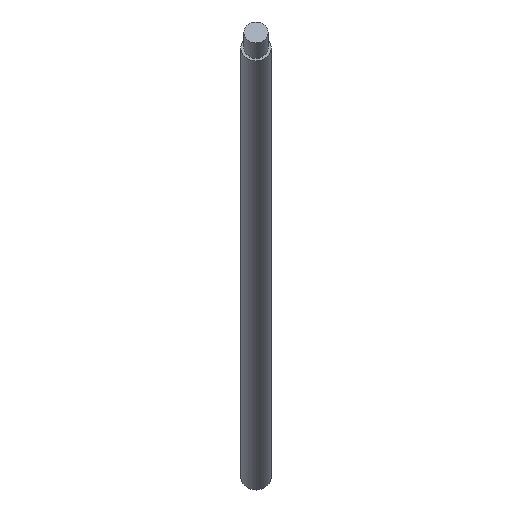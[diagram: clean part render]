
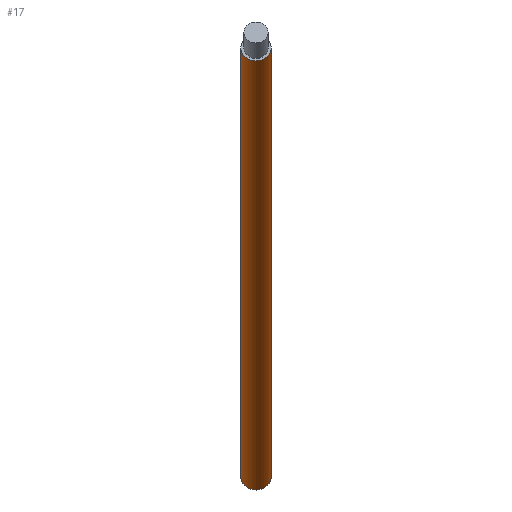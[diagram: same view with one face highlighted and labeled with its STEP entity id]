
A CAD part, front view. The second image highlights one B-rep face of the part: STEP entity #17.
In plain terms, the highlighted cylindrical face has radius 12.5 mm (diameter 25 mm), a full revolution.
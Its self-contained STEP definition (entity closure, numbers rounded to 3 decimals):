
#17 = ADVANCED_FACE('',(#18),#31,.T.);
#18 = FACE_BOUND('',#19,.T.);
#19 = EDGE_LOOP('',(#20,#54,#77,#104));
#20 = ORIENTED_EDGE('',*,*,#21,.F.);
#21 = EDGE_CURVE('',#22,#22,#24,.T.);
#22 = VERTEX_POINT('',#23);
#23 = CARTESIAN_POINT('',(0.,-1536.224,
    2049.474));
#24 = SURFACE_CURVE('',#25,(#30,#42),.PCURVE_S1.);
#25 = CIRCLE('',#26,12.5);
#26 = AXIS2_PLACEMENT_3D('',#27,#28,#29);
#27 = CARTESIAN_POINT('',(0.,-1529.763,2060.175));
#28 = DIRECTION('',(0.,-0.856,0.517));
#29 = DIRECTION('',(0.,-0.517,-0.856));
#30 = PCURVE('',#31,#36);
#31 = CYLINDRICAL_SURFACE('',#32,12.5);
#32 = AXIS2_PLACEMENT_3D('',#33,#34,#35);
#33 = CARTESIAN_POINT('',(0.,-943.359,1706.12));
#34 = DIRECTION('',(0.,-0.856,0.517));
#35 = DIRECTION('',(0.,-0.517,-0.856));
#36 = DEFINITIONAL_REPRESENTATION('',(#37),#41);
#37 = LINE('',#38,#39);
#38 = CARTESIAN_POINT('',(0.,685.));
#39 = VECTOR('',#40,1.);
#40 = DIRECTION('',(1.,0.));
#41 = ( GEOMETRIC_REPRESENTATION_CONTEXT(2) 
PARAMETRIC_REPRESENTATION_CONTEXT() REPRESENTATION_CONTEXT('2D SPACE',''
  ) );
#42 = PCURVE('',#43,#48);
#43 = PLANE('',#44);
#44 = AXIS2_PLACEMENT_3D('',#45,#46,#47);
#45 = CARTESIAN_POINT('',(0.,-1529.763,2060.175));
#46 = DIRECTION('',(0.,-0.856,0.517));
#47 = DIRECTION('',(0.,-0.517,-0.856));
#48 = DEFINITIONAL_REPRESENTATION('',(#49),#53);
#49 = CIRCLE('',#50,12.5);
#50 = AXIS2_PLACEMENT_2D('',#51,#52);
#51 = CARTESIAN_POINT('',(0.,0.));
#52 = DIRECTION('',(1.,0.));
#53 = ( GEOMETRIC_REPRESENTATION_CONTEXT(2) 
PARAMETRIC_REPRESENTATION_CONTEXT() REPRESENTATION_CONTEXT('2D SPACE',''
  ) );
#54 = ORIENTED_EDGE('',*,*,#55,.F.);
#55 = EDGE_CURVE('',#56,#22,#58,.T.);
#56 = VERTEX_POINT('',#57);
#57 = CARTESIAN_POINT('',(0.,-949.82,
    1695.419));
#58 = SEAM_CURVE('',#59,(#63,#70),.PCURVE_S1.);
#59 = LINE('',#60,#61);
#60 = CARTESIAN_POINT('',(0.,-949.82,
    1695.419));
#61 = VECTOR('',#62,1.);
#62 = DIRECTION('',(0.,-0.856,0.517)
  );
#63 = PCURVE('',#31,#64);
#64 = DEFINITIONAL_REPRESENTATION('',(#65),#69);
#65 = LINE('',#66,#67);
#66 = CARTESIAN_POINT('',(6.283,-0.));
#67 = VECTOR('',#68,1.);
#68 = DIRECTION('',(0.,1.));
#69 = ( GEOMETRIC_REPRESENTATION_CONTEXT(2) 
PARAMETRIC_REPRESENTATION_CONTEXT() REPRESENTATION_CONTEXT('2D SPACE',''
  ) );
#70 = PCURVE('',#31,#71);
#71 = DEFINITIONAL_REPRESENTATION('',(#72),#76);
#72 = LINE('',#73,#74);
#73 = CARTESIAN_POINT('',(0.,-0.));
#74 = VECTOR('',#75,1.);
#75 = DIRECTION('',(0.,1.));
#76 = ( GEOMETRIC_REPRESENTATION_CONTEXT(2) 
PARAMETRIC_REPRESENTATION_CONTEXT() REPRESENTATION_CONTEXT('2D SPACE',''
  ) );
#77 = ORIENTED_EDGE('',*,*,#78,.T.);
#78 = EDGE_CURVE('',#56,#56,#79,.T.);
#79 = SURFACE_CURVE('',#80,(#85,#92),.PCURVE_S1.);
#80 = CIRCLE('',#81,12.5);
#81 = AXIS2_PLACEMENT_3D('',#82,#83,#84);
#82 = CARTESIAN_POINT('',(0.,-943.359,1706.12));
#83 = DIRECTION('',(0.,-0.856,0.517));
#84 = DIRECTION('',(0.,-0.517,-0.856));
#85 = PCURVE('',#31,#86);
#86 = DEFINITIONAL_REPRESENTATION('',(#87),#91);
#87 = LINE('',#88,#89);
#88 = CARTESIAN_POINT('',(0.,0.));
#89 = VECTOR('',#90,1.);
#90 = DIRECTION('',(1.,0.));
#91 = ( GEOMETRIC_REPRESENTATION_CONTEXT(2) 
PARAMETRIC_REPRESENTATION_CONTEXT() REPRESENTATION_CONTEXT('2D SPACE',''
  ) );
#92 = PCURVE('',#93,#98);
#93 = PLANE('',#94);
#94 = AXIS2_PLACEMENT_3D('',#95,#96,#97);
#95 = CARTESIAN_POINT('',(0.,-943.359,1706.12));
#96 = DIRECTION('',(0.,-0.856,0.517));
#97 = DIRECTION('',(0.,-0.517,-0.856));
#98 = DEFINITIONAL_REPRESENTATION('',(#99),#103);
#99 = CIRCLE('',#100,12.5);
#100 = AXIS2_PLACEMENT_2D('',#101,#102);
#101 = CARTESIAN_POINT('',(0.,0.));
#102 = DIRECTION('',(1.,0.));
#103 = ( GEOMETRIC_REPRESENTATION_CONTEXT(2) 
PARAMETRIC_REPRESENTATION_CONTEXT() REPRESENTATION_CONTEXT('2D SPACE',''
  ) );
#104 = ORIENTED_EDGE('',*,*,#55,.T.);
